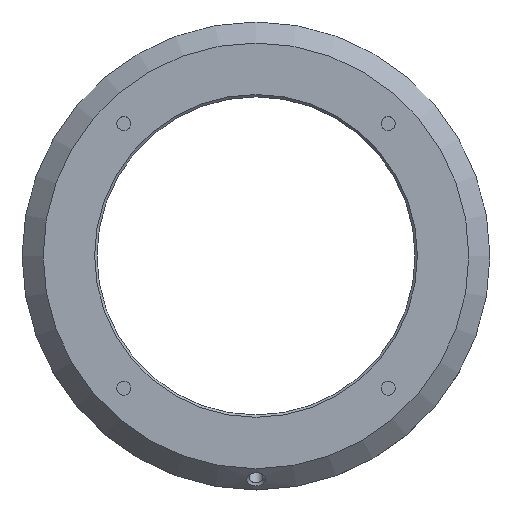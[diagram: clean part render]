
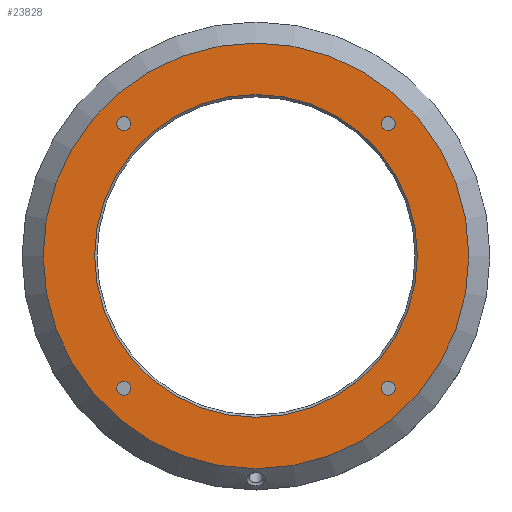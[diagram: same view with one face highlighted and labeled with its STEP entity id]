
A CAD part, top view. The second image highlights one B-rep face of the part: STEP entity #23828.
In plain terms, the highlighted planar face has unit normal (0, 0, 1).
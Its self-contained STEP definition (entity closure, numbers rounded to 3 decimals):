
#23733=CARTESIAN_POINT('',(34.5,0.,21.5));
#23734=VERTEX_POINT('',#23733);
#23735=CARTESIAN_POINT('',(0.0,0.,21.5));
#23736=DIRECTION('',(0.0,0.0,1.0));
#23737=DIRECTION('',(-1.0,0.0,0.0));
#23738=AXIS2_PLACEMENT_3D('',#23735,#23736,#23737);
#23739=CIRCLE('',#23738,34.5);
#23740=EDGE_CURVE('',#23734,#23734,#23739,.T.);
#23765=CARTESIAN_POINT('',(0.0,0.,21.5));
#23766=DIRECTION('',(0.0,0.0,-1.0));
#23767=DIRECTION('',(-1.0,0.0,0.0));
#23768=AXIS2_PLACEMENT_3D('',#23765,#23766,#23767);
#23769=PLANE('',#23768);
#23770=CARTESIAN_POINT('',(0.0,-45.5,21.5));
#23771=VERTEX_POINT('',#23770);
#23772=CARTESIAN_POINT('',(0.0,0.,21.5));
#23773=DIRECTION('',(0.0,0.0,1.0));
#23774=DIRECTION('',(0.0,-1.0,0.0));
#23775=AXIS2_PLACEMENT_3D('',#23772,#23773,#23774);
#23776=CIRCLE('',#23775,45.5);
#23777=EDGE_CURVE('',#23771,#23771,#23776,.T.);
#23778=ORIENTED_EDGE('',*,*,#23777,.T.);
#23779=EDGE_LOOP('',(#23778));
#23780=FACE_OUTER_BOUND('',#23779,.T.);
#23781=CARTESIAN_POINT('',(29.784,28.284,21.5));
#23782=VERTEX_POINT('',#23781);
#23783=CARTESIAN_POINT('',(28.284,28.284,21.5));
#23784=DIRECTION('',(0.0,0.0,-1.0));
#23785=DIRECTION('',(-1.0,0.0,0.0));
#23786=AXIS2_PLACEMENT_3D('',#23783,#23784,#23785);
#23787=CIRCLE('',#23786,1.5);
#23788=EDGE_CURVE('',#23782,#23782,#23787,.T.);
#23789=ORIENTED_EDGE('',*,*,#23788,.T.);
#23790=EDGE_LOOP('',(#23789));
#23791=FACE_BOUND('',#23790,.T.);
#23792=CARTESIAN_POINT('',(-28.284,29.784,21.5));
#23793=VERTEX_POINT('',#23792);
#23794=CARTESIAN_POINT('',(-28.284,28.284,21.5));
#23795=DIRECTION('',(0.0,0.0,-1.0));
#23796=DIRECTION('',(0.0,-1.0,0.0));
#23797=AXIS2_PLACEMENT_3D('',#23794,#23795,#23796);
#23798=CIRCLE('',#23797,1.5);
#23799=EDGE_CURVE('',#23793,#23793,#23798,.T.);
#23800=ORIENTED_EDGE('',*,*,#23799,.T.);
#23801=EDGE_LOOP('',(#23800));
#23802=FACE_BOUND('',#23801,.T.);
#23803=CARTESIAN_POINT('',(-29.784,-28.284,21.5));
#23804=VERTEX_POINT('',#23803);
#23805=CARTESIAN_POINT('',(-28.284,-28.284,21.5));
#23806=DIRECTION('',(0.0,0.0,-1.0));
#23807=DIRECTION('',(1.0,0.0,0.0));
#23808=AXIS2_PLACEMENT_3D('',#23805,#23806,#23807);
#23809=CIRCLE('',#23808,1.5);
#23810=EDGE_CURVE('',#23804,#23804,#23809,.T.);
#23811=ORIENTED_EDGE('',*,*,#23810,.T.);
#23812=EDGE_LOOP('',(#23811));
#23813=FACE_BOUND('',#23812,.T.);
#23814=CARTESIAN_POINT('',(28.284,-29.784,21.5));
#23815=VERTEX_POINT('',#23814);
#23816=CARTESIAN_POINT('',(28.284,-28.284,21.5));
#23817=DIRECTION('',(0.0,0.0,-1.0));
#23818=DIRECTION('',(0.0,1.0,0.0));
#23819=AXIS2_PLACEMENT_3D('',#23816,#23817,#23818);
#23820=CIRCLE('',#23819,1.5);
#23821=EDGE_CURVE('',#23815,#23815,#23820,.T.);
#23822=ORIENTED_EDGE('',*,*,#23821,.T.);
#23823=EDGE_LOOP('',(#23822));
#23824=FACE_BOUND('',#23823,.T.);
#23825=ORIENTED_EDGE('',*,*,#23740,.F.);
#23826=EDGE_LOOP('',(#23825));
#23827=FACE_BOUND('',#23826,.T.);
#23828=ADVANCED_FACE('',(#23780,#23791,#23802,#23813,#23824,#23827),#23769,.F.);
